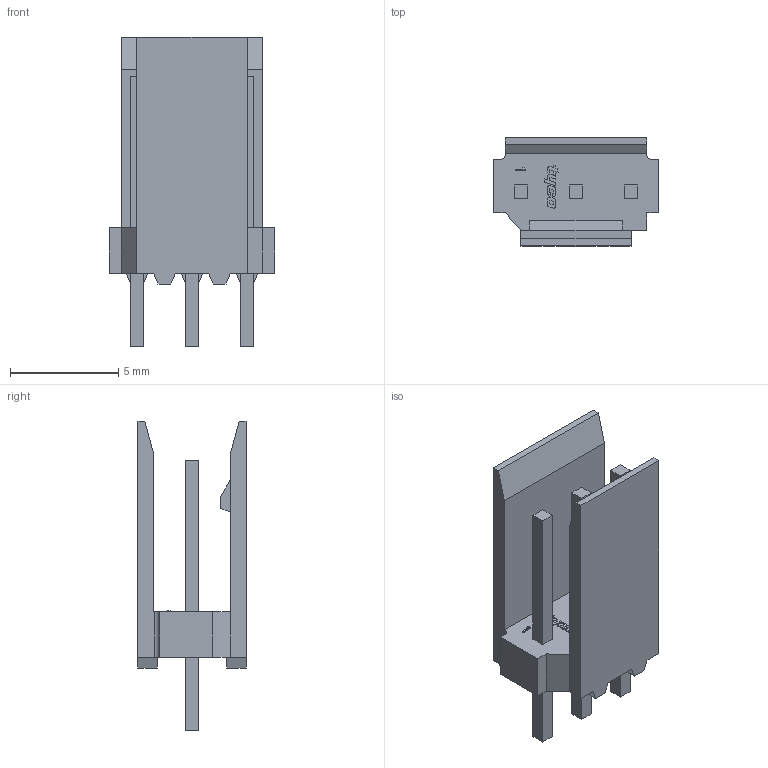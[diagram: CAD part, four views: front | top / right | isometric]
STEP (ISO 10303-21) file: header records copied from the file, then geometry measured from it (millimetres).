
FILE_DESCRIPTION(('STEP AP242'),'1');
FILE_NAME('02m0094_281695-3.stp','2020-03-20T13:12:54',('TraceParts'),('TraceParts S.A.'),'Spatial InterOp 3D',' ',' ');
FILE_SCHEMA(('AP242_MANAGED_MODEL_BASED_3D_ENGINEERING_MIM_LF {1 0 10303 442 1 1 4}'));
Length unit declared in the file: millimetre
Products named in the file (1): 02m0094_281695-3
Bounding box: 7.62 x 5 x 14.3 mm (x, y, z)
Volume: 158.3 mm3; surface area: 433.5 mm2
Topology: 1 solids, 1 shells, 175 faces, 478 edges, 318 vertices
Faces by surface type: plane 135, cylinder 40
Entity records: 5511 total; most frequent: CARTESIAN_POINT 972, ORIENTED_EDGE 956, DIRECTION 910, EDGE_CURVE 478, LINE 398, VECTOR 398, VERTEX_POINT 318, AXIS2_PLACEMENT_3D 256
